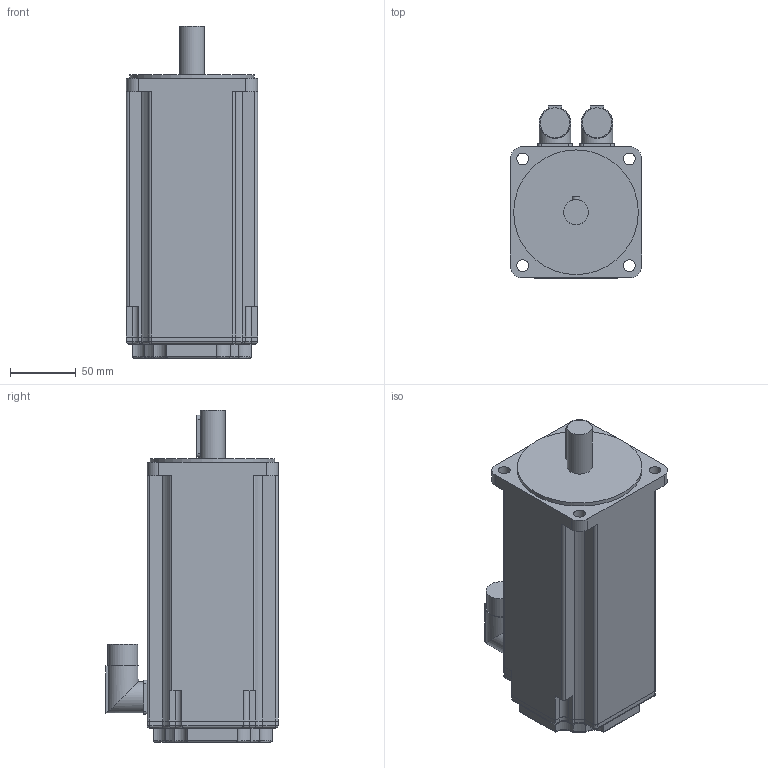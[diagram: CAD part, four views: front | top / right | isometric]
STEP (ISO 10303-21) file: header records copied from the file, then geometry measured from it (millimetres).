
FILE_DESCRIPTION(/* description */ (''),/* implementation_level */ '2;1');
FILE_NAME(/* name */ '\\Lafnas01\disegni\Archivi Lafert\3D\CAD 3D\MODELLI\Assiemi clienti\Serad\Modelli 3D Serad\B63Q\Encoder\Enc With Brake\B6306Qxx6BRx2033.ipt.stp',/* time_stamp */ '2015-09-07T10:50:55+02:00',/* author */ ('Pastrello Ylenia'),/* organization */ (''),/* preprocessor_version */ 'ST-DEVELOPER v15.6',/* originating_system */ 'Autodesk Inventor 2015',/* authorisation */ '');
FILE_SCHEMA (('AUTOMOTIVE_DESIGN { 1 0 10303 214 3 1 1 }'));
Length unit declared in the file: millimetre
Products named in the file (1): B6306Qxx6BRx2033
Bounding box: 100 x 131.5 x 253 mm (x, y, z)
Volume: 1952197.9 mm3; surface area: 112949.3 mm2
Topology: 1 solids, 1 shells, 195 faces, 500 edges, 318 vertices
Faces by surface type: cylinder 90, plane 81, torus 20, sphere 4
Full cylindrical faces by diameter (mm): 9 x4, 19 x1, 22.7 x2, 24 x2, 95 x1
Entity records: 6152 total; most frequent: CARTESIAN_POINT 1342, DIRECTION 1030, ORIENTED_EDGE 972, EDGE_CURVE 486, AXIS2_PLACEMENT_3D 374, VERTEX_POINT 314, LINE 282, VECTOR 282
